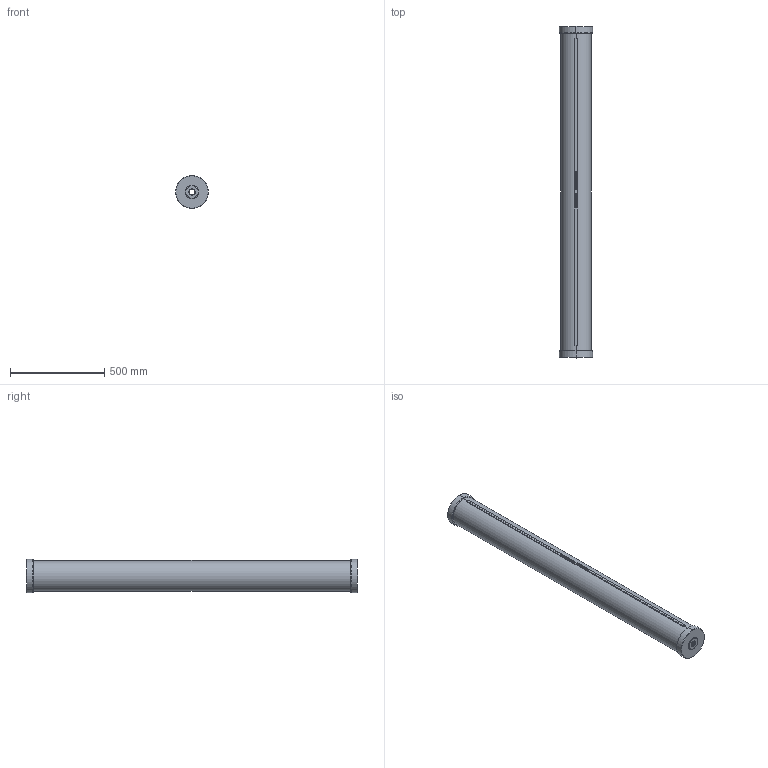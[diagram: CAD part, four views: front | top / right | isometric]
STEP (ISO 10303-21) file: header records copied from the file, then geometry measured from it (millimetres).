
FILE_DESCRIPTION (( 'STEP AP214' ), '1' );
FILE_NAME ('30.0LTR-C-11-00.STEP', '2025-06-24T08:46:29', ( '' ), ( '' ), 'SwSTEP 2.0', 'SolidWorks 2024', '' );
FILE_SCHEMA (( 'AUTOMOTIVE_DESIGN' ));
Length unit declared in the file: millimetre
Products named in the file (1): 30.0LTR-C-11-00
Bounding box: 175 x 1759 x 175 mm (x, y, z)
Volume: 3770354.9 mm3; surface area: 1909514.4 mm2
Topology: 4 solids, 4 shells, 595 faces, 1562 edges, 1036 vertices
Faces by surface type: plane 306, bspline 229, cylinder 40, cone 16, torus 4
Entity records: 38653 total; most frequent: CARTESIAN_POINT 19059, ORIENTED_EDGE 3124, DIRECTION 1838, EDGE_CURVE 1562, VERTEX_POINT 1036, VECTOR 984, LINE 984, EDGE_LOOP 662
